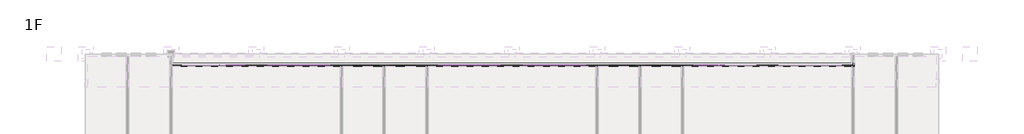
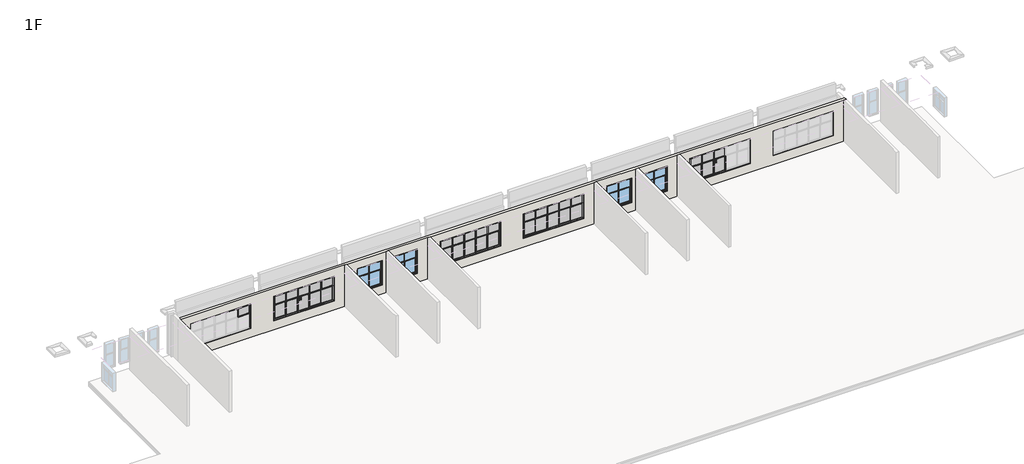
# One storey, part 5 of 16: 95 members, 30 plates, 4 windows, 1 wall.
"""IFC4 building model written with IfcOpenShell, lengths in millimetres."""

from ifc_helpers import new_model, si_unit, origin, place, context, project, spatial, faceted_brep, transform, mapped, element, save
from components import member_7564be38, member_1f4d75dd, member_0b7842ad, member_163d5e45, member_ffafc35e, member_2b011958, member_9c26cac3, member_6c42befd, member_a374fdad, plate_75e73fbb, plate_f4dba16c, plate_1cc4df2b, plate_4fa5932a, plate_00f9c624, plate_7c94d5a9, lc4_lc4_fe35c1f3

model = new_model("IFC4")

# Units and contexts
model_context = context("Model", 3, world=origin())
ifc_project = project(units=[si_unit("LENGTHUNIT", "METRE", prefix="MILLI")], contexts=[model_context])

# Site, building, storey
site = spatial("IfcSite", under=ifc_project)
building = spatial("IfcBuilding", under=site)
storey = spatial("IfcBuildingStorey", under=building, Name="1F", Elevation=0.0)

# Members
placement = place(None, origin())
member_shape = member_7564be38(model_context)
element("IfcMember", 1, ObjectType="矩形竖梃 : 教学楼 – 矩形竖梃 – 100x150mm", at=placement, inside=storey, context=model_context, shape_type="MappedRepresentation", body=[
    mapped(member_shape, transform((17900.0000002, 32200.0, 3400.0), x_axis=(0.0, 0.0, 1.0), y_axis=(0.0, -1.0, 0.0), z_axis=(1.0, 0.0, 0.0))),
])
element("IfcMember", 2, ObjectType="矩形竖梃 : 教学楼 – 矩形竖梃 – 100x150mm", at=placement, inside=storey, context=model_context, shape_type="MappedRepresentation", body=[
    mapped(member_shape, transform((25899.9999995, 32200.0, 3400.0), x_axis=(0.0, 0.0, 1.0), y_axis=(0.0, -1.0, 0.0), z_axis=(1.0, 0.0, 0.0))),
])
element("IfcMember", 3, ObjectType="矩形竖梃 : 教学楼 – 矩形竖梃 – 100x150mm", at=placement, inside=storey, context=model_context, shape_type="MappedRepresentation", body=[
    mapped(member_shape, transform((41900.0000002, 32200.0, 3400.0), x_axis=(0.0, 0.0, 1.0), y_axis=(0.0, -1.0, 0.0), z_axis=(1.0, 0.0, 0.0))),
])
element("IfcMember", 4, ObjectType="矩形竖梃 : 教学楼 – 矩形竖梃 – 100x150mm", at=placement, inside=storey, context=model_context, shape_type="MappedRepresentation", body=[
    mapped(member_shape, transform((49899.9999995, 32200.0, 3400.0), x_axis=(0.0, 0.0, 1.0), y_axis=(0.0, -1.0, 0.0), z_axis=(1.0, 0.0, 0.0))),
])
element("IfcMember", 5, ObjectType="矩形竖梃 : 教学楼 – 矩形竖梃 – 100x150mm", at=placement, inside=storey, context=model_context, shape_type="MappedRepresentation", body=[
    mapped(member_shape, transform((20099.9999995, 32200.0, 900.0), x_axis=(0.0, 0.0, -1.0), y_axis=(0.0, -1.0, 0.0), z_axis=(-1.0, 0.0, 0.0))),
])
element("IfcMember", 6, ObjectType="矩形竖梃 : 教学楼 – 矩形竖梃 – 100x150mm", at=placement, inside=storey, context=model_context, shape_type="MappedRepresentation", body=[
    mapped(member_shape, transform((36100.0000002, 32200.0, 900.0), x_axis=(0.0, 0.0, -1.0), y_axis=(0.0, -1.0, 0.0), z_axis=(-1.0, 0.0, 0.0))),
])
element("IfcMember", 7, ObjectType="矩形竖梃 : 教学楼 – 矩形竖梃 – 100x150mm", at=placement, inside=storey, context=model_context, shape_type="MappedRepresentation", body=[
    mapped(member_shape, transform((44099.9999995, 32200.0, 900.0), x_axis=(0.0, 0.0, -1.0), y_axis=(0.0, -1.0, 0.0), z_axis=(-1.0, 0.0, 0.0))),
])
element("IfcMember", 8, ObjectType="矩形竖梃 : 教学楼 – 矩形竖梃 – 100x150mm", at=placement, inside=storey, context=model_context, shape_type="MappedRepresentation", body=[
    mapped(member_shape, transform((60100.0000002, 32200.0, 900.0), x_axis=(0.0, 0.0, -1.0), y_axis=(0.0, -1.0, 0.0), z_axis=(-1.0, 0.0, 0.0))),
])
member_2_shape = member_1f4d75dd(model_context)
element("IfcMember", 9, ObjectType="矩形竖梃 : 教学楼 – 矩形竖梃 – 50x150mm", at=placement, inside=storey, context=model_context, shape_type="MappedRepresentation", body=[
    mapped(member_2_shape, transform((22449.9999995, 32200.0, 1000.0), x_axis=(1.0, 0.0, 0.0), y_axis=(0.0, -1.0, 0.0), z_axis=(0.0, 0.0, -1.0))),
])
element("IfcMember", 10, ObjectType="矩形竖梃 : 教学楼 – 矩形竖梃 – 50x150mm", at=placement, inside=storey, context=model_context, shape_type="MappedRepresentation", body=[
    mapped(member_2_shape, transform((23549.9999995, 32200.0, 1000.0), x_axis=(1.0, 0.0, 0.0), y_axis=(0.0, -1.0, 0.0), z_axis=(0.0, 0.0, -1.0))),
])
element("IfcMember", 11, ObjectType="矩形竖梃 : 教学楼 – 矩形竖梃 – 50x150mm", at=placement, inside=storey, context=model_context, shape_type="MappedRepresentation", body=[
    mapped(member_2_shape, transform((38450.0000002, 32200.0, 1000.0), x_axis=(1.0, 0.0, 0.0), y_axis=(0.0, -1.0, 0.0), z_axis=(0.0, 0.0, -1.0))),
])
element("IfcMember", 12, ObjectType="矩形竖梃 : 教学楼 – 矩形竖梃 – 50x150mm", at=placement, inside=storey, context=model_context, shape_type="MappedRepresentation", body=[
    mapped(member_2_shape, transform((39550.0000002, 32200.0, 1000.0), x_axis=(1.0, 0.0, 0.0), y_axis=(0.0, -1.0, 0.0), z_axis=(0.0, 0.0, -1.0))),
])
element("IfcMember", 13, ObjectType="矩形竖梃 : 教学楼 – 矩形竖梃 – 50x150mm", at=placement, inside=storey, context=model_context, shape_type="MappedRepresentation", body=[
    mapped(member_2_shape, transform((46449.9999995, 32200.0, 1000.0), x_axis=(1.0, 0.0, 0.0), y_axis=(0.0, -1.0, 0.0), z_axis=(0.0, 0.0, -1.0))),
])
element("IfcMember", 14, ObjectType="矩形竖梃 : 教学楼 – 矩形竖梃 – 50x150mm", at=placement, inside=storey, context=model_context, shape_type="MappedRepresentation", body=[
    mapped(member_2_shape, transform((47549.9999995, 32200.0, 1000.0), x_axis=(1.0, 0.0, 0.0), y_axis=(0.0, -1.0, 0.0), z_axis=(0.0, 0.0, -1.0))),
])
element("IfcMember", 15, ObjectType="矩形竖梃 : 教学楼 – 矩形竖梃 – 50x150mm", at=placement, inside=storey, context=model_context, shape_type="MappedRepresentation", body=[
    mapped(member_2_shape, transform((62450.0000002, 32200.0, 1000.0), x_axis=(1.0, 0.0, 0.0), y_axis=(0.0, -1.0, 0.0), z_axis=(0.0, 0.0, -1.0))),
])
element("IfcMember", 16, ObjectType="矩形竖梃 : 教学楼 – 矩形竖梃 – 50x150mm", at=placement, inside=storey, context=model_context, shape_type="MappedRepresentation", body=[
    mapped(member_2_shape, transform((63550.0000002, 32200.0, 1000.0), x_axis=(1.0, 0.0, 0.0), y_axis=(0.0, -1.0, 0.0), z_axis=(0.0, 0.0, -1.0))),
])
member_3_shape = member_0b7842ad(model_context)
element("IfcMember", 17, ObjectType="矩形竖梃 : 教学楼 – 矩形竖梃 – 50x150mm", at=placement, inside=storey, context=model_context, shape_type="MappedRepresentation", body=[
    mapped(member_3_shape, transform((21299.9999995, 32200.0, 2450.0), x_axis=(0.0, 0.0, 1.0), y_axis=(0.0, -1.0, 0.0), z_axis=(1.0, 0.0, 0.0))),
])
element("IfcMember", 18, ObjectType="矩形竖梃 : 教学楼 – 矩形竖梃 – 50x150mm", at=placement, inside=storey, context=model_context, shape_type="MappedRepresentation", body=[
    mapped(member_3_shape, transform((37300.0000002, 32200.0, 2450.0), x_axis=(0.0, 0.0, 1.0), y_axis=(0.0, -1.0, 0.0), z_axis=(1.0, 0.0, 0.0))),
])
element("IfcMember", 19, ObjectType="矩形竖梃 : 教学楼 – 矩形竖梃 – 50x150mm", at=placement, inside=storey, context=model_context, shape_type="MappedRepresentation", body=[
    mapped(member_3_shape, transform((45299.9999995, 32200.0, 2450.0), x_axis=(0.0, 0.0, 1.0), y_axis=(0.0, -1.0, 0.0), z_axis=(1.0, 0.0, 0.0))),
])
element("IfcMember", 20, ObjectType="矩形竖梃 : 教学楼 – 矩形竖梃 – 50x150mm", at=placement, inside=storey, context=model_context, shape_type="MappedRepresentation", body=[
    mapped(member_3_shape, transform((61300.0000002, 32200.0, 2450.0), x_axis=(0.0, 0.0, 1.0), y_axis=(0.0, -1.0, 0.0), z_axis=(1.0, 0.0, 0.0))),
])
member_4_shape = member_163d5e45(model_context)
element("IfcMember", 21, ObjectType="矩形竖梃 : 教学楼 – 矩形竖梃 – 50x150mm", at=placement, inside=storey, context=model_context, shape_type="MappedRepresentation", body=[
    mapped(member_4_shape, transform((22449.9999995, 32200.0, 2450.0), x_axis=(0.0, 0.0, 1.0), y_axis=(0.0, -1.0, 0.0), z_axis=(1.0, 0.0, 0.0))),
])
element("IfcMember", 22, ObjectType="矩形竖梃 : 教学楼 – 矩形竖梃 – 50x150mm", at=placement, inside=storey, context=model_context, shape_type="MappedRepresentation", body=[
    mapped(member_4_shape, transform((24699.9999995, 32200.0, 2450.0), x_axis=(0.0, 0.0, 1.0), y_axis=(0.0, -1.0, 0.0), z_axis=(1.0, 0.0, 0.0))),
])
element("IfcMember", 23, ObjectType="矩形竖梃 : 教学楼 – 矩形竖梃 – 50x150mm", at=placement, inside=storey, context=model_context, shape_type="MappedRepresentation", body=[
    mapped(member_4_shape, transform((38450.0000002, 32200.0, 2450.0), x_axis=(0.0, 0.0, 1.0), y_axis=(0.0, -1.0, 0.0), z_axis=(1.0, 0.0, 0.0))),
])
element("IfcMember", 24, ObjectType="矩形竖梃 : 教学楼 – 矩形竖梃 – 50x150mm", at=placement, inside=storey, context=model_context, shape_type="MappedRepresentation", body=[
    mapped(member_4_shape, transform((40700.0000002, 32200.0, 2450.0), x_axis=(0.0, 0.0, 1.0), y_axis=(0.0, -1.0, 0.0), z_axis=(1.0, 0.0, 0.0))),
])
element("IfcMember", 25, ObjectType="矩形竖梃 : 教学楼 – 矩形竖梃 – 50x150mm", at=placement, inside=storey, context=model_context, shape_type="MappedRepresentation", body=[
    mapped(member_4_shape, transform((46449.9999995, 32200.0, 2450.0), x_axis=(0.0, 0.0, 1.0), y_axis=(0.0, -1.0, 0.0), z_axis=(1.0, 0.0, 0.0))),
])
element("IfcMember", 26, ObjectType="矩形竖梃 : 教学楼 – 矩形竖梃 – 50x150mm", at=placement, inside=storey, context=model_context, shape_type="MappedRepresentation", body=[
    mapped(member_4_shape, transform((48699.9999995, 32200.0, 2450.0), x_axis=(0.0, 0.0, 1.0), y_axis=(0.0, -1.0, 0.0), z_axis=(1.0, 0.0, 0.0))),
])
element("IfcMember", 27, ObjectType="矩形竖梃 : 教学楼 – 矩形竖梃 – 50x150mm", at=placement, inside=storey, context=model_context, shape_type="MappedRepresentation", body=[
    mapped(member_4_shape, transform((62450.0000002, 32200.0, 2450.0), x_axis=(0.0, 0.0, 1.0), y_axis=(0.0, -1.0, 0.0), z_axis=(1.0, 0.0, 0.0))),
])
element("IfcMember", 28, ObjectType="矩形竖梃 : 教学楼 – 矩形竖梃 – 50x150mm", at=placement, inside=storey, context=model_context, shape_type="MappedRepresentation", body=[
    mapped(member_3_shape, transform((23549.9999995, 32200.0, 2450.0), x_axis=(0.0, 0.0, 1.0), y_axis=(0.0, -1.0, 0.0), z_axis=(1.0, 0.0, 0.0))),
])
element("IfcMember", 29, ObjectType="矩形竖梃 : 教学楼 – 矩形竖梃 – 50x150mm", at=placement, inside=storey, context=model_context, shape_type="MappedRepresentation", body=[
    mapped(member_3_shape, transform((39550.0000002, 32200.0, 2450.0), x_axis=(0.0, 0.0, 1.0), y_axis=(0.0, -1.0, 0.0), z_axis=(1.0, 0.0, 0.0))),
])
element("IfcMember", 30, ObjectType="矩形竖梃 : 教学楼 – 矩形竖梃 – 50x150mm", at=placement, inside=storey, context=model_context, shape_type="MappedRepresentation", body=[
    mapped(member_3_shape, transform((47549.9999995, 32200.0, 2450.0), x_axis=(0.0, 0.0, 1.0), y_axis=(0.0, -1.0, 0.0), z_axis=(1.0, 0.0, 0.0))),
])
element("IfcMember", 31, ObjectType="矩形竖梃 : 教学楼 – 矩形竖梃 – 50x150mm", at=placement, inside=storey, context=model_context, shape_type="MappedRepresentation", body=[
    mapped(member_3_shape, transform((63550.0000002, 32200.0, 2450.0), x_axis=(0.0, 0.0, 1.0), y_axis=(0.0, -1.0, 0.0), z_axis=(1.0, 0.0, 0.0))),
])
element("IfcMember", 32, ObjectType="矩形竖梃 : 教学楼 – 矩形竖梃 – 50x150mm", at=placement, inside=storey, context=model_context, shape_type="MappedRepresentation", body=[
    mapped(member_3_shape, transform((17800.0000002, 32200.0, 2450.0), x_axis=(0.0, 0.0, 1.0), y_axis=(0.0, -1.0, 0.0), z_axis=(1.0, 0.0, 0.0))),
])
element("IfcMember", 33, ObjectType="矩形竖梃 : 教学楼 – 矩形竖梃 – 50x150mm", at=placement, inside=storey, context=model_context, shape_type="MappedRepresentation", body=[
    mapped(member_3_shape, transform((25799.9999995, 32200.0, 2450.0), x_axis=(0.0, 0.0, 1.0), y_axis=(0.0, -1.0, 0.0), z_axis=(1.0, 0.0, 0.0))),
])
element("IfcMember", 34, ObjectType="矩形竖梃 : 教学楼 – 矩形竖梃 – 50x150mm", at=placement, inside=storey, context=model_context, shape_type="MappedRepresentation", body=[
    mapped(member_3_shape, transform((41800.0000002, 32200.0, 2450.0), x_axis=(0.0, 0.0, 1.0), y_axis=(0.0, -1.0, 0.0), z_axis=(1.0, 0.0, 0.0))),
])
element("IfcMember", 35, ObjectType="矩形竖梃 : 教学楼 – 矩形竖梃 – 50x150mm", at=placement, inside=storey, context=model_context, shape_type="MappedRepresentation", body=[
    mapped(member_3_shape, transform((49799.9999995, 32200.0, 2450.0), x_axis=(0.0, 0.0, 1.0), y_axis=(0.0, -1.0, 0.0), z_axis=(1.0, 0.0, 0.0))),
])
member_5_shape = member_ffafc35e(model_context)
element("IfcMember", 36, ObjectType="矩形竖梃 : 教学楼 – 矩形竖梃 – 100x150mm", at=placement, inside=storey, context=model_context, shape_type="MappedRepresentation", body=[
    mapped(member_5_shape, transform((21299.9999995, 32200.0, 900.0), x_axis=(0.0, 0.0, -1.0), y_axis=(0.0, -1.0, 0.0), z_axis=(-1.0, 0.0, 0.0))),
])
element("IfcMember", 37, ObjectType="矩形竖梃 : 教学楼 – 矩形竖梃 – 100x150mm", at=placement, inside=storey, context=model_context, shape_type="MappedRepresentation", body=[
    mapped(member_5_shape, transform((37300.0000002, 32200.0, 900.0), x_axis=(0.0, 0.0, -1.0), y_axis=(0.0, -1.0, 0.0), z_axis=(-1.0, 0.0, 0.0))),
])
element("IfcMember", 38, ObjectType="矩形竖梃 : 教学楼 – 矩形竖梃 – 100x150mm", at=placement, inside=storey, context=model_context, shape_type="MappedRepresentation", body=[
    mapped(member_5_shape, transform((45299.9999995, 32200.0, 900.0), x_axis=(0.0, 0.0, -1.0), y_axis=(0.0, -1.0, 0.0), z_axis=(-1.0, 0.0, 0.0))),
])
element("IfcMember", 39, ObjectType="矩形竖梃 : 教学楼 – 矩形竖梃 – 100x150mm", at=placement, inside=storey, context=model_context, shape_type="MappedRepresentation", body=[
    mapped(member_5_shape, transform((61300.0000002, 32200.0, 900.0), x_axis=(0.0, 0.0, -1.0), y_axis=(0.0, -1.0, 0.0), z_axis=(-1.0, 0.0, 0.0))),
])
member_6_shape = member_2b011958(model_context)
element("IfcMember", 40, ObjectType="矩形竖梃 : 教学楼 – 矩形竖梃 – 100x150mm", at=placement, inside=storey, context=model_context, shape_type="MappedRepresentation", body=[
    mapped(member_6_shape, transform((22449.9999995, 32200.0, 900.0), x_axis=(0.0, 0.0, -1.0), y_axis=(0.0, -1.0, 0.0), z_axis=(-1.0, 0.0, 0.0))),
])
element("IfcMember", 41, ObjectType="矩形竖梃 : 教学楼 – 矩形竖梃 – 100x150mm", at=placement, inside=storey, context=model_context, shape_type="MappedRepresentation", body=[
    mapped(member_6_shape, transform((38450.0000002, 32200.0, 900.0), x_axis=(0.0, 0.0, -1.0), y_axis=(0.0, -1.0, 0.0), z_axis=(-1.0, 0.0, 0.0))),
])
element("IfcMember", 42, ObjectType="矩形竖梃 : 教学楼 – 矩形竖梃 – 100x150mm", at=placement, inside=storey, context=model_context, shape_type="MappedRepresentation", body=[
    mapped(member_6_shape, transform((46449.9999995, 32200.0, 900.0), x_axis=(0.0, 0.0, -1.0), y_axis=(0.0, -1.0, 0.0), z_axis=(-1.0, 0.0, 0.0))),
])
element("IfcMember", 43, ObjectType="矩形竖梃 : 教学楼 – 矩形竖梃 – 100x150mm", at=placement, inside=storey, context=model_context, shape_type="MappedRepresentation", body=[
    mapped(member_6_shape, transform((62450.0000002, 32200.0, 900.0), x_axis=(0.0, 0.0, -1.0), y_axis=(0.0, -1.0, 0.0), z_axis=(-1.0, 0.0, 0.0))),
])
element("IfcMember", 44, ObjectType="矩形竖梃 : 教学楼 – 矩形竖梃 – 100x150mm", at=placement, inside=storey, context=model_context, shape_type="MappedRepresentation", body=[
    mapped(member_5_shape, transform((23549.9999995, 32200.0, 900.0), x_axis=(0.0, 0.0, -1.0), y_axis=(0.0, -1.0, 0.0), z_axis=(-1.0, 0.0, 0.0))),
])
element("IfcMember", 45, ObjectType="矩形竖梃 : 教学楼 – 矩形竖梃 – 100x150mm", at=placement, inside=storey, context=model_context, shape_type="MappedRepresentation", body=[
    mapped(member_5_shape, transform((39550.0000002, 32200.0, 900.0), x_axis=(0.0, 0.0, -1.0), y_axis=(0.0, -1.0, 0.0), z_axis=(-1.0, 0.0, 0.0))),
])
element("IfcMember", 46, ObjectType="矩形竖梃 : 教学楼 – 矩形竖梃 – 100x150mm", at=placement, inside=storey, context=model_context, shape_type="MappedRepresentation", body=[
    mapped(member_5_shape, transform((47549.9999995, 32200.0, 900.0), x_axis=(0.0, 0.0, -1.0), y_axis=(0.0, -1.0, 0.0), z_axis=(-1.0, 0.0, 0.0))),
])
element("IfcMember", 47, ObjectType="矩形竖梃 : 教学楼 – 矩形竖梃 – 100x150mm", at=placement, inside=storey, context=model_context, shape_type="MappedRepresentation", body=[
    mapped(member_shape, transform((24699.9999995, 32200.0, 900.0), x_axis=(0.0, 0.0, -1.0), y_axis=(0.0, -1.0, 0.0), z_axis=(-1.0, 0.0, 0.0))),
])
element("IfcMember", 48, ObjectType="矩形竖梃 : 教学楼 – 矩形竖梃 – 100x150mm", at=placement, inside=storey, context=model_context, shape_type="MappedRepresentation", body=[
    mapped(member_shape, transform((40700.0000002, 32200.0, 900.0), x_axis=(0.0, 0.0, -1.0), y_axis=(0.0, -1.0, 0.0), z_axis=(-1.0, 0.0, 0.0))),
])
element("IfcMember", 49, ObjectType="矩形竖梃 : 教学楼 – 矩形竖梃 – 100x150mm", at=placement, inside=storey, context=model_context, shape_type="MappedRepresentation", body=[
    mapped(member_shape, transform((48699.9999995, 32200.0, 900.0), x_axis=(0.0, 0.0, -1.0), y_axis=(0.0, -1.0, 0.0), z_axis=(-1.0, 0.0, 0.0))),
])
element("IfcMember", 50, ObjectType="矩形竖梃 : 教学楼 – 矩形竖梃 – 100x150mm", at=placement, inside=storey, context=model_context, shape_type="MappedRepresentation", body=[
    mapped(member_shape, transform((21299.9999995, 32200.0, 3400.0), x_axis=(0.0, 0.0, 1.0), y_axis=(0.0, -1.0, 0.0), z_axis=(1.0, 0.0, 0.0))),
])
element("IfcMember", 51, ObjectType="矩形竖梃 : 教学楼 – 矩形竖梃 – 100x150mm", at=placement, inside=storey, context=model_context, shape_type="MappedRepresentation", body=[
    mapped(member_shape, transform((37300.0000002, 32200.0, 3400.0), x_axis=(0.0, 0.0, 1.0), y_axis=(0.0, -1.0, 0.0), z_axis=(1.0, 0.0, 0.0))),
])
element("IfcMember", 52, ObjectType="矩形竖梃 : 教学楼 – 矩形竖梃 – 100x150mm", at=placement, inside=storey, context=model_context, shape_type="MappedRepresentation", body=[
    mapped(member_shape, transform((45299.9999995, 32200.0, 3400.0), x_axis=(0.0, 0.0, 1.0), y_axis=(0.0, -1.0, 0.0), z_axis=(1.0, 0.0, 0.0))),
])
element("IfcMember", 53, ObjectType="矩形竖梃 : 教学楼 – 矩形竖梃 – 100x150mm", at=placement, inside=storey, context=model_context, shape_type="MappedRepresentation", body=[
    mapped(member_shape, transform((61300.0000002, 32200.0, 3400.0), x_axis=(0.0, 0.0, 1.0), y_axis=(0.0, -1.0, 0.0), z_axis=(1.0, 0.0, 0.0))),
])
element("IfcMember", 54, ObjectType="矩形竖梃 : 教学楼 – 矩形竖梃 – 100x150mm", at=placement, inside=storey, context=model_context, shape_type="MappedRepresentation", body=[
    mapped(member_5_shape, transform((16700.0000002, 32200.0, 3400.0), x_axis=(0.0, 0.0, 1.0), y_axis=(0.0, -1.0, 0.0), z_axis=(1.0, 0.0, 0.0))),
])
element("IfcMember", 55, ObjectType="矩形竖梃 : 教学楼 – 矩形竖梃 – 100x150mm", at=placement, inside=storey, context=model_context, shape_type="MappedRepresentation", body=[
    mapped(member_5_shape, transform((22449.9999995, 32200.0, 3400.0), x_axis=(0.0, 0.0, 1.0), y_axis=(0.0, -1.0, 0.0), z_axis=(1.0, 0.0, 0.0))),
])
element("IfcMember", 56, ObjectType="矩形竖梃 : 教学楼 – 矩形竖梃 – 100x150mm", at=placement, inside=storey, context=model_context, shape_type="MappedRepresentation", body=[
    mapped(member_5_shape, transform((24699.9999995, 32200.0, 3400.0), x_axis=(0.0, 0.0, 1.0), y_axis=(0.0, -1.0, 0.0), z_axis=(1.0, 0.0, 0.0))),
])
element("IfcMember", 57, ObjectType="矩形竖梃 : 教学楼 – 矩形竖梃 – 100x150mm", at=placement, inside=storey, context=model_context, shape_type="MappedRepresentation", body=[
    mapped(member_5_shape, transform((38450.0000002, 32200.0, 3400.0), x_axis=(0.0, 0.0, 1.0), y_axis=(0.0, -1.0, 0.0), z_axis=(1.0, 0.0, 0.0))),
])
element("IfcMember", 58, ObjectType="矩形竖梃 : 教学楼 – 矩形竖梃 – 100x150mm", at=placement, inside=storey, context=model_context, shape_type="MappedRepresentation", body=[
    mapped(member_5_shape, transform((40700.0000002, 32200.0, 3400.0), x_axis=(0.0, 0.0, 1.0), y_axis=(0.0, -1.0, 0.0), z_axis=(1.0, 0.0, 0.0))),
])
element("IfcMember", 59, ObjectType="矩形竖梃 : 教学楼 – 矩形竖梃 – 100x150mm", at=placement, inside=storey, context=model_context, shape_type="MappedRepresentation", body=[
    mapped(member_5_shape, transform((46449.9999995, 32200.0, 3400.0), x_axis=(0.0, 0.0, 1.0), y_axis=(0.0, -1.0, 0.0), z_axis=(1.0, 0.0, 0.0))),
])
element("IfcMember", 60, ObjectType="矩形竖梃 : 教学楼 – 矩形竖梃 – 100x150mm", at=placement, inside=storey, context=model_context, shape_type="MappedRepresentation", body=[
    mapped(member_5_shape, transform((48699.9999995, 32200.0, 3400.0), x_axis=(0.0, 0.0, 1.0), y_axis=(0.0, -1.0, 0.0), z_axis=(1.0, 0.0, 0.0))),
])
element("IfcMember", 61, ObjectType="矩形竖梃 : 教学楼 – 矩形竖梃 – 100x150mm", at=placement, inside=storey, context=model_context, shape_type="MappedRepresentation", body=[
    mapped(member_5_shape, transform((62450.0000002, 32200.0, 3400.0), x_axis=(0.0, 0.0, 1.0), y_axis=(0.0, -1.0, 0.0), z_axis=(1.0, 0.0, 0.0))),
])
element("IfcMember", 62, ObjectType="矩形竖梃 : 教学楼 – 矩形竖梃 – 100x150mm", at=placement, inside=storey, context=model_context, shape_type="MappedRepresentation", body=[
    mapped(member_6_shape, transform((23549.9999995, 32200.0, 3400.0), x_axis=(0.0, 0.0, 1.0), y_axis=(0.0, -1.0, 0.0), z_axis=(1.0, 0.0, 0.0))),
])
element("IfcMember", 63, ObjectType="矩形竖梃 : 教学楼 – 矩形竖梃 – 100x150mm", at=placement, inside=storey, context=model_context, shape_type="MappedRepresentation", body=[
    mapped(member_6_shape, transform((39550.0000002, 32200.0, 3400.0), x_axis=(0.0, 0.0, 1.0), y_axis=(0.0, -1.0, 0.0), z_axis=(1.0, 0.0, 0.0))),
])
element("IfcMember", 64, ObjectType="矩形竖梃 : 教学楼 – 矩形竖梃 – 100x150mm", at=placement, inside=storey, context=model_context, shape_type="MappedRepresentation", body=[
    mapped(member_6_shape, transform((47549.9999995, 32200.0, 3400.0), x_axis=(0.0, 0.0, 1.0), y_axis=(0.0, -1.0, 0.0), z_axis=(1.0, 0.0, 0.0))),
])
member_7_shape = member_9c26cac3(model_context)
element("IfcMember", 65, ObjectType="矩形竖梃 : 教学楼 – 矩形竖梃 – 50x150mm", at=placement, inside=storey, context=model_context, shape_type="MappedRepresentation", body=[
    mapped(member_7_shape, transform((16700.0000002, 32200.0, 2475.0), x_axis=(1.0, 0.0, 0.0), y_axis=(0.0, -1.0, 0.0), z_axis=(0.0, 0.0, -1.0))),
])
element("IfcMember", 66, ObjectType="矩形竖梃 : 教学楼 – 矩形竖梃 – 50x150mm", at=placement, inside=storey, context=model_context, shape_type="MappedRepresentation", body=[
    mapped(member_7_shape, transform((21299.9999995, 32200.0, 2475.0), x_axis=(1.0, 0.0, 0.0), y_axis=(0.0, -1.0, 0.0), z_axis=(0.0, 0.0, -1.0))),
])
element("IfcMember", 67, ObjectType="矩形竖梃 : 教学楼 – 矩形竖梃 – 50x150mm", at=placement, inside=storey, context=model_context, shape_type="MappedRepresentation", body=[
    mapped(member_7_shape, transform((22449.9999995, 32200.0, 2475.0), x_axis=(1.0, 0.0, 0.0), y_axis=(0.0, -1.0, 0.0), z_axis=(0.0, 0.0, -1.0))),
])
element("IfcMember", 68, ObjectType="矩形竖梃 : 教学楼 – 矩形竖梃 – 50x150mm", at=placement, inside=storey, context=model_context, shape_type="MappedRepresentation", body=[
    mapped(member_7_shape, transform((23549.9999995, 32200.0, 2475.0), x_axis=(1.0, 0.0, 0.0), y_axis=(0.0, -1.0, 0.0), z_axis=(0.0, 0.0, -1.0))),
])
element("IfcMember", 69, ObjectType="矩形竖梃 : 教学楼 – 矩形竖梃 – 50x150mm", at=placement, inside=storey, context=model_context, shape_type="MappedRepresentation", body=[
    mapped(member_7_shape, transform((24699.9999995, 32200.0, 2475.0), x_axis=(1.0, 0.0, 0.0), y_axis=(0.0, -1.0, 0.0), z_axis=(0.0, 0.0, -1.0))),
])
element("IfcMember", 70, ObjectType="矩形竖梃 : 教学楼 – 矩形竖梃 – 50x150mm", at=placement, inside=storey, context=model_context, shape_type="MappedRepresentation", body=[
    mapped(member_7_shape, transform((37300.0000002, 32200.0, 2475.0), x_axis=(1.0, 0.0, 0.0), y_axis=(0.0, -1.0, 0.0), z_axis=(0.0, 0.0, -1.0))),
])
element("IfcMember", 71, ObjectType="矩形竖梃 : 教学楼 – 矩形竖梃 – 50x150mm", at=placement, inside=storey, context=model_context, shape_type="MappedRepresentation", body=[
    mapped(member_7_shape, transform((38450.0000002, 32200.0, 2475.0), x_axis=(1.0, 0.0, 0.0), y_axis=(0.0, -1.0, 0.0), z_axis=(0.0, 0.0, -1.0))),
])
element("IfcMember", 72, ObjectType="矩形竖梃 : 教学楼 – 矩形竖梃 – 50x150mm", at=placement, inside=storey, context=model_context, shape_type="MappedRepresentation", body=[
    mapped(member_7_shape, transform((39550.0000002, 32200.0, 2475.0), x_axis=(1.0, 0.0, 0.0), y_axis=(0.0, -1.0, 0.0), z_axis=(0.0, 0.0, -1.0))),
])
element("IfcMember", 73, ObjectType="矩形竖梃 : 教学楼 – 矩形竖梃 – 50x150mm", at=placement, inside=storey, context=model_context, shape_type="MappedRepresentation", body=[
    mapped(member_7_shape, transform((40700.0000002, 32200.0, 2475.0), x_axis=(1.0, 0.0, 0.0), y_axis=(0.0, -1.0, 0.0), z_axis=(0.0, 0.0, -1.0))),
])
element("IfcMember", 74, ObjectType="矩形竖梃 : 教学楼 – 矩形竖梃 – 50x150mm", at=placement, inside=storey, context=model_context, shape_type="MappedRepresentation", body=[
    mapped(member_7_shape, transform((45299.9999995, 32200.0, 2475.0), x_axis=(1.0, 0.0, 0.0), y_axis=(0.0, -1.0, 0.0), z_axis=(0.0, 0.0, -1.0))),
])
element("IfcMember", 75, ObjectType="矩形竖梃 : 教学楼 – 矩形竖梃 – 50x150mm", at=placement, inside=storey, context=model_context, shape_type="MappedRepresentation", body=[
    mapped(member_7_shape, transform((46449.9999995, 32200.0, 2475.0), x_axis=(1.0, 0.0, 0.0), y_axis=(0.0, -1.0, 0.0), z_axis=(0.0, 0.0, -1.0))),
])
element("IfcMember", 76, ObjectType="矩形竖梃 : 教学楼 – 矩形竖梃 – 50x150mm", at=placement, inside=storey, context=model_context, shape_type="MappedRepresentation", body=[
    mapped(member_7_shape, transform((47549.9999995, 32200.0, 2475.0), x_axis=(1.0, 0.0, 0.0), y_axis=(0.0, -1.0, 0.0), z_axis=(0.0, 0.0, -1.0))),
])
element("IfcMember", 77, ObjectType="矩形竖梃 : 教学楼 – 矩形竖梃 – 50x150mm", at=placement, inside=storey, context=model_context, shape_type="MappedRepresentation", body=[
    mapped(member_7_shape, transform((48699.9999995, 32200.0, 2475.0), x_axis=(1.0, 0.0, 0.0), y_axis=(0.0, -1.0, 0.0), z_axis=(0.0, 0.0, -1.0))),
])
element("IfcMember", 78, ObjectType="矩形竖梃 : 教学楼 – 矩形竖梃 – 50x150mm", at=placement, inside=storey, context=model_context, shape_type="MappedRepresentation", body=[
    mapped(member_7_shape, transform((61300.0000002, 32200.0, 2475.0), x_axis=(1.0, 0.0, 0.0), y_axis=(0.0, -1.0, 0.0), z_axis=(0.0, 0.0, -1.0))),
])
element("IfcMember", 79, ObjectType="矩形竖梃 : 教学楼 – 矩形竖梃 – 50x150mm", at=placement, inside=storey, context=model_context, shape_type="MappedRepresentation", body=[
    mapped(member_7_shape, transform((62450.0000002, 32200.0, 2475.0), x_axis=(1.0, 0.0, 0.0), y_axis=(0.0, -1.0, 0.0), z_axis=(0.0, 0.0, -1.0))),
])
member_8_shape = member_6c42befd(model_context)
element("IfcMember", 80, ObjectType="矩形竖梃 : 教学楼 – 矩形竖梃 – 100x150mm", at=placement, inside=storey, context=model_context, shape_type="MappedRepresentation", body=[
    mapped(member_8_shape, transform((20099.9999995, 32200.0, 3300.0), x_axis=(-1.0, 0.0, 0.0), y_axis=(0.0, -1.0, 0.0), z_axis=(0.0, 0.0, 1.0))),
])
element("IfcMember", 81, ObjectType="矩形竖梃 : 教学楼 – 矩形竖梃 – 100x150mm", at=placement, inside=storey, context=model_context, shape_type="MappedRepresentation", body=[
    mapped(member_8_shape, transform((36100.0000002, 32200.0, 3300.0), x_axis=(-1.0, 0.0, 0.0), y_axis=(0.0, -1.0, 0.0), z_axis=(0.0, 0.0, 1.0))),
])
element("IfcMember", 82, ObjectType="矩形竖梃 : 教学楼 – 矩形竖梃 – 100x150mm", at=placement, inside=storey, context=model_context, shape_type="MappedRepresentation", body=[
    mapped(member_8_shape, transform((44099.9999995, 32200.0, 3300.0), x_axis=(-1.0, 0.0, 0.0), y_axis=(0.0, -1.0, 0.0), z_axis=(0.0, 0.0, 1.0))),
])
element("IfcMember", 83, ObjectType="矩形竖梃 : 教学楼 – 矩形竖梃 – 100x150mm", at=placement, inside=storey, context=model_context, shape_type="MappedRepresentation", body=[
    mapped(member_8_shape, transform((60100.0000002, 32200.0, 3300.0), x_axis=(-1.0, 0.0, 0.0), y_axis=(0.0, -1.0, 0.0), z_axis=(0.0, 0.0, 1.0))),
])
member_9_shape = member_a374fdad(model_context)
element("IfcMember", 84, ObjectType="矩形竖梃 : 教学楼 – 矩形竖梃 – 100x150mm", at=placement, inside=storey, context=model_context, shape_type="MappedRepresentation", body=[
    mapped(member_9_shape, transform((17900.0000002, 32200.0, 1000.0), x_axis=(1.0, 0.0, 0.0), y_axis=(0.0, -1.0, 0.0), z_axis=(0.0, 0.0, -1.0))),
])
element("IfcMember", 85, ObjectType="矩形竖梃 : 教学楼 – 矩形竖梃 – 100x150mm", at=placement, inside=storey, context=model_context, shape_type="MappedRepresentation", body=[
    mapped(member_9_shape, transform((25899.9999995, 32200.0, 1000.0), x_axis=(1.0, 0.0, 0.0), y_axis=(0.0, -1.0, 0.0), z_axis=(0.0, 0.0, -1.0))),
])
element("IfcMember", 86, ObjectType="矩形竖梃 : 教学楼 – 矩形竖梃 – 100x150mm", at=placement, inside=storey, context=model_context, shape_type="MappedRepresentation", body=[
    mapped(member_9_shape, transform((41900.0000002, 32200.0, 1000.0), x_axis=(1.0, 0.0, 0.0), y_axis=(0.0, -1.0, 0.0), z_axis=(0.0, 0.0, -1.0))),
])
element("IfcMember", 87, ObjectType="矩形竖梃 : 教学楼 – 矩形竖梃 – 100x150mm", at=placement, inside=storey, context=model_context, shape_type="MappedRepresentation", body=[
    mapped(member_9_shape, transform((49899.9999995, 32200.0, 1000.0), x_axis=(1.0, 0.0, 0.0), y_axis=(0.0, -1.0, 0.0), z_axis=(0.0, 0.0, -1.0))),
])
element("IfcMember", 88, ObjectType="矩形竖梃 : 教学楼 – 矩形竖梃 – 100x150mm", at=placement, inside=storey, context=model_context, shape_type="MappedRepresentation", body=[
    mapped(member_8_shape, transform((17900.0000002, 32200.0, 2450.0), x_axis=(1.0, 0.0, 0.0), y_axis=(0.0, -1.0, 0.0), z_axis=(0.0, 0.0, -1.0))),
])
element("IfcMember", 89, ObjectType="矩形竖梃 : 教学楼 – 矩形竖梃 – 100x150mm", at=placement, inside=storey, context=model_context, shape_type="MappedRepresentation", body=[
    mapped(member_8_shape, transform((25899.9999995, 32200.0, 2450.0), x_axis=(1.0, 0.0, 0.0), y_axis=(0.0, -1.0, 0.0), z_axis=(0.0, 0.0, -1.0))),
])
element("IfcMember", 90, ObjectType="矩形竖梃 : 教学楼 – 矩形竖梃 – 100x150mm", at=placement, inside=storey, context=model_context, shape_type="MappedRepresentation", body=[
    mapped(member_8_shape, transform((41900.0000002, 32200.0, 2450.0), x_axis=(1.0, 0.0, 0.0), y_axis=(0.0, -1.0, 0.0), z_axis=(0.0, 0.0, -1.0))),
])
element("IfcMember", 91, ObjectType="矩形竖梃 : 教学楼 – 矩形竖梃 – 100x150mm", at=placement, inside=storey, context=model_context, shape_type="MappedRepresentation", body=[
    mapped(member_8_shape, transform((49899.9999995, 32200.0, 2450.0), x_axis=(1.0, 0.0, 0.0), y_axis=(0.0, -1.0, 0.0), z_axis=(0.0, 0.0, -1.0))),
])
element("IfcMember", 92, ObjectType="矩形竖梃 : 教学楼 – 矩形竖梃 – 100x150mm", at=placement, inside=storey, context=model_context, shape_type="MappedRepresentation", body=[
    mapped(member_9_shape, transform((20099.9999995, 32200.0, 2450.0), x_axis=(-1.0, 0.0, 0.0), y_axis=(0.0, -1.0, 0.0), z_axis=(0.0, 0.0, 1.0))),
])
element("IfcMember", 93, ObjectType="矩形竖梃 : 教学楼 – 矩形竖梃 – 100x150mm", at=placement, inside=storey, context=model_context, shape_type="MappedRepresentation", body=[
    mapped(member_9_shape, transform((36100.0000002, 32200.0, 2450.0), x_axis=(-1.0, 0.0, 0.0), y_axis=(0.0, -1.0, 0.0), z_axis=(0.0, 0.0, 1.0))),
])
element("IfcMember", 94, ObjectType="矩形竖梃 : 教学楼 – 矩形竖梃 – 100x150mm", at=placement, inside=storey, context=model_context, shape_type="MappedRepresentation", body=[
    mapped(member_9_shape, transform((44099.9999995, 32200.0, 2450.0), x_axis=(-1.0, 0.0, 0.0), y_axis=(0.0, -1.0, 0.0), z_axis=(0.0, 0.0, 1.0))),
])
element("IfcMember", 95, ObjectType="矩形竖梃 : 教学楼 – 矩形竖梃 – 100x150mm", at=placement, inside=storey, context=model_context, shape_type="MappedRepresentation", body=[
    mapped(member_9_shape, transform((60100.0000002, 32200.0, 2450.0), x_axis=(-1.0, 0.0, 0.0), y_axis=(0.0, -1.0, 0.0), z_axis=(0.0, 0.0, 1.0))),
])

# Plates
plate_shape = plate_75e73fbb(model_context)
element("IfcPlate", 96, ObjectType="教学楼 - 窗嵌板：双扇推拉窗 : 教学楼 - 窗嵌板：双扇推拉窗", at=placement, inside=storey, context=model_context, shape_type="MappedRepresentation", body=[
    mapped(plate_shape, transform((21312.4999995, 32200.0, 1000.0), x_axis=(1.0, 0.0, 0.0), y_axis=(0.0, 1.0, 0.0), z_axis=(0.0, 0.0, 1.0))),
])
element("IfcPlate", 97, ObjectType="教学楼 - 窗嵌板：双扇推拉窗 : 教学楼 - 窗嵌板：双扇推拉窗", at=placement, inside=storey, context=model_context, shape_type="MappedRepresentation", body=[
    mapped(plate_shape, transform((37312.5000002, 32200.0, 1000.0), x_axis=(1.0, 0.0, 0.0), y_axis=(0.0, 1.0, 0.0), z_axis=(0.0, 0.0, 1.0))),
])
element("IfcPlate", 98, ObjectType="教学楼 - 窗嵌板：双扇推拉窗 : 教学楼 - 窗嵌板：双扇推拉窗", at=placement, inside=storey, context=model_context, shape_type="MappedRepresentation", body=[
    mapped(plate_shape, transform((45312.4999995, 32200.0, 1000.0), x_axis=(1.0, 0.0, 0.0), y_axis=(0.0, 1.0, 0.0), z_axis=(0.0, 0.0, 1.0))),
])
element("IfcPlate", 99, ObjectType="教学楼 - 窗嵌板：双扇推拉窗 : 教学楼 - 窗嵌板：双扇推拉窗", at=placement, inside=storey, context=model_context, shape_type="MappedRepresentation", body=[
    mapped(plate_shape, transform((61312.5000002, 32200.0, 1000.0), x_axis=(1.0, 0.0, 0.0), y_axis=(0.0, 1.0, 0.0), z_axis=(0.0, 0.0, 1.0))),
])
plate_2_shape = plate_f4dba16c(model_context)
element("IfcPlate", 100, ObjectType="系统嵌板 : 玻璃", at=placement, inside=storey, context=model_context, shape_type="MappedRepresentation", body=[
    mapped(plate_2_shape, transform((39000.0000002, 32200.0, 1000.0), x_axis=(1.0, 0.0, 0.0), y_axis=(0.0, 1.0, 0.0), z_axis=(0.0, 0.0, 1.0))),
])
element("IfcPlate", 101, ObjectType="系统嵌板 : 玻璃", at=placement, inside=storey, context=model_context, shape_type="MappedRepresentation", body=[
    mapped(plate_2_shape, transform((46999.9999995, 32200.0, 1000.0), x_axis=(1.0, 0.0, 0.0), y_axis=(0.0, 1.0, 0.0), z_axis=(0.0, 0.0, 1.0))),
])
element("IfcPlate", 102, ObjectType="教学楼 - 窗嵌板：双扇推拉窗 : 教学楼 - 窗嵌板：双扇推拉窗", at=placement, inside=storey, context=model_context, shape_type="MappedRepresentation", body=[
    mapped(plate_shape, transform((24687.4999995, 32200.0, 1000.0), x_axis=(1.0, 0.0, 0.0), y_axis=(0.0, 1.0, 0.0), z_axis=(0.0, 0.0, 1.0))),
])
element("IfcPlate", 103, ObjectType="教学楼 - 窗嵌板：双扇推拉窗 : 教学楼 - 窗嵌板：双扇推拉窗", at=placement, inside=storey, context=model_context, shape_type="MappedRepresentation", body=[
    mapped(plate_shape, transform((40687.5000002, 32200.0, 1000.0), x_axis=(1.0, 0.0, 0.0), y_axis=(0.0, 1.0, 0.0), z_axis=(0.0, 0.0, 1.0))),
])
element("IfcPlate", 104, ObjectType="教学楼 - 窗嵌板：双扇推拉窗 : 教学楼 - 窗嵌板：双扇推拉窗", at=placement, inside=storey, context=model_context, shape_type="MappedRepresentation", body=[
    mapped(plate_shape, transform((48687.4999995, 32200.0, 1000.0), x_axis=(1.0, 0.0, 0.0), y_axis=(0.0, 1.0, 0.0), z_axis=(0.0, 0.0, 1.0))),
])
plate_3_shape = plate_1cc4df2b(model_context)
element("IfcPlate", 105, ObjectType="系统嵌板 : 玻璃", at=placement, inside=storey, context=model_context, shape_type="MappedRepresentation", body=[
    mapped(plate_3_shape, transform((17262.5000002, 32200.0, 2475.0), x_axis=(1.0, 0.0, 0.0), y_axis=(0.0, 1.0, 0.0), z_axis=(0.0, 0.0, 1.0))),
])
element("IfcPlate", 106, ObjectType="系统嵌板 : 玻璃", at=placement, inside=storey, context=model_context, shape_type="MappedRepresentation", body=[
    mapped(plate_3_shape, transform((20737.4999995, 32200.0, 2475.0), x_axis=(1.0, 0.0, 0.0), y_axis=(0.0, 1.0, 0.0), z_axis=(0.0, 0.0, 1.0))),
])
element("IfcPlate", 107, ObjectType="系统嵌板 : 玻璃", at=placement, inside=storey, context=model_context, shape_type="MappedRepresentation", body=[
    mapped(plate_3_shape, transform((25262.4999995, 32200.0, 2475.0), x_axis=(1.0, 0.0, 0.0), y_axis=(0.0, 1.0, 0.0), z_axis=(0.0, 0.0, 1.0))),
])
element("IfcPlate", 108, ObjectType="系统嵌板 : 玻璃", at=placement, inside=storey, context=model_context, shape_type="MappedRepresentation", body=[
    mapped(plate_3_shape, transform((36737.5000002, 32200.0, 2475.0), x_axis=(1.0, 0.0, 0.0), y_axis=(0.0, 1.0, 0.0), z_axis=(0.0, 0.0, 1.0))),
])
element("IfcPlate", 109, ObjectType="系统嵌板 : 玻璃", at=placement, inside=storey, context=model_context, shape_type="MappedRepresentation", body=[
    mapped(plate_3_shape, transform((41262.5000002, 32200.0, 2475.0), x_axis=(1.0, 0.0, 0.0), y_axis=(0.0, 1.0, 0.0), z_axis=(0.0, 0.0, 1.0))),
])
element("IfcPlate", 110, ObjectType="系统嵌板 : 玻璃", at=placement, inside=storey, context=model_context, shape_type="MappedRepresentation", body=[
    mapped(plate_3_shape, transform((44737.4999995, 32200.0, 2475.0), x_axis=(1.0, 0.0, 0.0), y_axis=(0.0, 1.0, 0.0), z_axis=(0.0, 0.0, 1.0))),
])
element("IfcPlate", 111, ObjectType="系统嵌板 : 玻璃", at=placement, inside=storey, context=model_context, shape_type="MappedRepresentation", body=[
    mapped(plate_3_shape, transform((49262.4999995, 32200.0, 2475.0), x_axis=(1.0, 0.0, 0.0), y_axis=(0.0, 1.0, 0.0), z_axis=(0.0, 0.0, 1.0))),
])
element("IfcPlate", 112, ObjectType="系统嵌板 : 玻璃", at=placement, inside=storey, context=model_context, shape_type="MappedRepresentation", body=[
    mapped(plate_3_shape, transform((60737.5000002, 32200.0, 2475.0), x_axis=(1.0, 0.0, 0.0), y_axis=(0.0, 1.0, 0.0), z_axis=(0.0, 0.0, 1.0))),
])
plate_4_shape = plate_4fa5932a(model_context)
element("IfcPlate", 113, ObjectType="系统嵌板 : 玻璃", at=placement, inside=storey, context=model_context, shape_type="MappedRepresentation", body=[
    mapped(plate_4_shape, transform((21874.9999995, 32200.0, 2475.0), x_axis=(1.0, 0.0, 0.0), y_axis=(0.0, 1.0, 0.0), z_axis=(0.0, 0.0, 1.0))),
])
element("IfcPlate", 114, ObjectType="系统嵌板 : 玻璃", at=placement, inside=storey, context=model_context, shape_type="MappedRepresentation", body=[
    mapped(plate_4_shape, transform((24124.9999995, 32200.0, 2475.0), x_axis=(1.0, 0.0, 0.0), y_axis=(0.0, 1.0, 0.0), z_axis=(0.0, 0.0, 1.0))),
])
element("IfcPlate", 115, ObjectType="系统嵌板 : 玻璃", at=placement, inside=storey, context=model_context, shape_type="MappedRepresentation", body=[
    mapped(plate_4_shape, transform((37875.0000002, 32200.0, 2475.0), x_axis=(1.0, 0.0, 0.0), y_axis=(0.0, 1.0, 0.0), z_axis=(0.0, 0.0, 1.0))),
])
element("IfcPlate", 116, ObjectType="系统嵌板 : 玻璃", at=placement, inside=storey, context=model_context, shape_type="MappedRepresentation", body=[
    mapped(plate_4_shape, transform((40125.0000002, 32200.0, 2475.0), x_axis=(1.0, 0.0, 0.0), y_axis=(0.0, 1.0, 0.0), z_axis=(0.0, 0.0, 1.0))),
])
element("IfcPlate", 117, ObjectType="系统嵌板 : 玻璃", at=placement, inside=storey, context=model_context, shape_type="MappedRepresentation", body=[
    mapped(plate_4_shape, transform((45874.9999995, 32200.0, 2475.0), x_axis=(1.0, 0.0, 0.0), y_axis=(0.0, 1.0, 0.0), z_axis=(0.0, 0.0, 1.0))),
])
element("IfcPlate", 118, ObjectType="系统嵌板 : 玻璃", at=placement, inside=storey, context=model_context, shape_type="MappedRepresentation", body=[
    mapped(plate_4_shape, transform((48124.9999995, 32200.0, 2475.0), x_axis=(1.0, 0.0, 0.0), y_axis=(0.0, 1.0, 0.0), z_axis=(0.0, 0.0, 1.0))),
])
element("IfcPlate", 119, ObjectType="系统嵌板 : 玻璃", at=placement, inside=storey, context=model_context, shape_type="MappedRepresentation", body=[
    mapped(plate_4_shape, transform((61875.0000002, 32200.0, 2475.0), x_axis=(1.0, 0.0, 0.0), y_axis=(0.0, 1.0, 0.0), z_axis=(0.0, 0.0, 1.0))),
])
plate_5_shape = plate_00f9c624(model_context)
element("IfcPlate", 120, ObjectType="系统嵌板 : 玻璃", at=placement, inside=storey, context=model_context, shape_type="MappedRepresentation", body=[
    mapped(plate_5_shape, transform((22999.9999995, 32200.0, 2475.0), x_axis=(1.0, 0.0, 0.0), y_axis=(0.0, 1.0, 0.0), z_axis=(0.0, 0.0, 1.0))),
])
element("IfcPlate", 121, ObjectType="系统嵌板 : 玻璃", at=placement, inside=storey, context=model_context, shape_type="MappedRepresentation", body=[
    mapped(plate_5_shape, transform((39000.0000002, 32200.0, 2475.0), x_axis=(1.0, 0.0, 0.0), y_axis=(0.0, 1.0, 0.0), z_axis=(0.0, 0.0, 1.0))),
])
element("IfcPlate", 122, ObjectType="系统嵌板 : 玻璃", at=placement, inside=storey, context=model_context, shape_type="MappedRepresentation", body=[
    mapped(plate_5_shape, transform((46999.9999995, 32200.0, 2475.0), x_axis=(1.0, 0.0, 0.0), y_axis=(0.0, 1.0, 0.0), z_axis=(0.0, 0.0, 1.0))),
])
element("IfcPlate", 123, ObjectType="系统嵌板 : 玻璃", at=placement, inside=storey, context=model_context, shape_type="MappedRepresentation", body=[
    mapped(plate_5_shape, transform((63000.0000002, 32200.0, 2475.0), x_axis=(1.0, 0.0, 0.0), y_axis=(0.0, 1.0, 0.0), z_axis=(0.0, 0.0, 1.0))),
])
plate_6_shape = plate_7c94d5a9(model_context)
element("IfcPlate", 124, ObjectType="教学楼 - 窗嵌板：外贴消防通道 : 教学楼 - 窗嵌板：外贴消防通道", at=placement, inside=storey, context=model_context, shape_type="MappedRepresentation", body=[
    mapped(plate_6_shape, transform((22999.9999995, 32200.0, 1000.0), x_axis=(1.0, 0.0, 0.0), y_axis=(0.0, 1.0, 0.0), z_axis=(0.0, 0.0, 1.0))),
])
element("IfcPlate", 125, ObjectType="教学楼 - 窗嵌板：外贴消防通道 : 教学楼 - 窗嵌板：外贴消防通道", at=placement, inside=storey, context=model_context, shape_type="MappedRepresentation", body=[
    mapped(plate_6_shape, transform((63000.0000002, 32200.0, 1000.0), x_axis=(1.0, 0.0, 0.0), y_axis=(0.0, 1.0, 0.0), z_axis=(0.0, 0.0, 1.0))),
])

# Wall
element("IfcWall", 126, ObjectType="教学楼 – 文化石外墙 – 200mm", at=placement, inside=storey, context=model_context, shape_type="Brep", body=[
    faceted_brep([(11153.0, 32065.0, 0.0), (26883.0, 32065.0, 0.0), (27117.0, 32065.0, 0.0), (30883.0000029, 32065.0, 0.0), (31117.0000029, 32065.0, 0.0), (34883.0, 32065.0, 0.0), (35117.0, 32065.0, 0.0), (50883.0, 32065.0, 0.0), (51117.0, 32065.0, 0.0), (54883.0000001, 32065.0, 0.0), (55117.0000001, 32065.0, 0.0), (58883.0, 32065.0, 0.0), (59117.0, 32065.0, 0.0), (74883.0, 32065.0, 0.0), (75117.0, 32065.0, 0.0), (75117.0, 32065.0, 4200.0), (74883.0, 32065.0, 4200.0), (59117.0, 32065.0, 4200.0), (58883.0, 32065.0, 4200.0), (55117.0000001, 32065.0, 4200.0), (54883.0000001, 32065.0, 4200.0), (51117.0, 32065.0, 4200.0), (50883.0, 32065.0, 4200.0), (35117.0, 32065.0, 4200.0), (34883.0, 32065.0, 4200.0), (31117.0000029, 32065.0, 4200.0), (30883.0000029, 32065.0, 4200.0), (27117.0, 32065.0, 4200.0), (26883.0, 32065.0, 4200.0), (11153.0, 32065.0, 4200.0), (60100.0000002, 32065.0, 900.0), (60100.0000002, 32065.0, 3400.0), (65900.0000002, 32065.0, 3400.0), (65900.0000002, 32065.0, 900.0), (44099.9999995, 32065.0, 900.0), (44099.9999995, 32065.0, 3400.0), (49899.9999995, 32065.0, 3400.0), (49899.9999995, 32065.0, 900.0), (36100.0000002, 32065.0, 900.0), (36100.0000002, 32065.0, 3400.0), (41900.0000002, 32065.0, 3400.0), (41900.0000002, 32065.0, 900.0), (20099.9999995, 32065.0, 900.0), (20099.9999995, 32065.0, 3400.0), (25899.9999995, 32065.0, 3400.0), (25899.9999995, 32065.0, 900.0), (12100.0000002, 32065.0, 900.0), (12100.0000002, 32065.0, 3400.0), (17900.0000002, 32065.0, 3400.0), (17900.0000002, 32065.0, 900.0), (68099.9999995, 32065.0, 900.0), (68099.9999995, 32065.0, 3400.0), (73899.9999995, 32065.0, 3400.0), (73899.9999995, 32065.0, 900.0), (55509.9999978, 32065.0, 900.0), (55509.9999978, 32065.0, 3400.0), (57909.9999978, 32065.0, 3400.0), (57909.9999978, 32065.0, 900.0), (54510.0000052, 32065.0, 3400.0), (54510.0000052, 32065.0, 900.0), (52110.0000052, 32065.0, 900.0), (52110.0000052, 32065.0, 3400.0), (33909.9999978, 32065.0, 3400.0), (33909.9999978, 32065.0, 900.0), (31509.9999978, 32065.0, 900.0), (31509.9999978, 32065.0, 3400.0), (28110.0000003, 32065.0, 900.0), (28110.0000003, 32065.0, 3400.0), (30510.0000003, 32065.0, 3400.0), (30510.0000003, 32065.0, 900.0), (75117.0, 32335.0, 0.0), (74847.0, 32335.0, 0.0), (11153.0, 32335.0, 0.0), (11153.0, 32335.0, 4200.0), (74847.0, 32335.0, 4200.0), (75117.0, 32335.0, 4200.0), (60100.0000002, 32335.0, 3400.0), (60100.0000002, 32335.0, 900.0), (65900.0000002, 32335.0, 900.0), (65900.0000002, 32335.0, 3400.0), (44099.9999995, 32335.0, 3400.0), (44099.9999995, 32335.0, 900.0), (49899.9999995, 32335.0, 900.0), (49899.9999995, 32335.0, 3400.0), (36100.0000002, 32335.0, 3400.0), (36100.0000002, 32335.0, 900.0), (41900.0000002, 32335.0, 900.0), (41900.0000002, 32335.0, 3400.0), (20099.9999995, 32335.0, 3400.0), (20099.9999995, 32335.0, 900.0), (25899.9999995, 32335.0, 900.0), (25899.9999995, 32335.0, 3400.0), (12100.0000002, 32335.0, 3400.0), (12100.0000002, 32335.0, 900.0), (17900.0000002, 32335.0, 900.0), (17900.0000002, 32335.0, 3400.0), (68099.9999995, 32335.0, 3400.0), (68099.9999995, 32335.0, 900.0), (73899.9999995, 32335.0, 900.0), (73899.9999995, 32335.0, 3400.0), (55509.9999978, 32335.0, 3400.0), (55509.9999978, 32335.0, 900.0), (57909.9999978, 32335.0, 900.0), (57909.9999978, 32335.0, 3400.0), (54510.0000052, 32335.0, 900.0), (54510.0000052, 32335.0, 3400.0), (52110.0000052, 32335.0, 3400.0), (52110.0000052, 32335.0, 900.0), (33909.9999978, 32335.0, 900.0), (33909.9999978, 32335.0, 3400.0), (31509.9999978, 32335.0, 3400.0), (31509.9999978, 32335.0, 900.0), (28110.0000003, 32335.0, 3400.0), (28110.0000003, 32335.0, 900.0), (30510.0000003, 32335.0, 900.0), (30510.0000003, 32335.0, 3400.0)], [[[0, 1, 2, 3, 4, 5, 6, 7, 8, 9, 10, 11, 12, 13, 14, 15, 16, 17, 18, 19, 20, 21, 22, 23, 24, 25, 26, 27, 28, 29], [30, 31, 32, 33], [34, 35, 36, 37], [38, 39, 40, 41], [42, 43, 44, 45], [46, 47, 48, 49], [50, 51, 52, 53], [54, 55, 56, 57], [58, 59, 60, 61], [62, 63, 64, 65], [66, 67, 68, 69]], [[70, 71, 72, 73, 74, 75], [76, 77, 78, 79], [80, 81, 82, 83], [84, 85, 86, 87], [88, 89, 90, 91], [92, 93, 94, 95], [96, 97, 98, 99], [100, 101, 102, 103], [104, 105, 106, 107], [108, 109, 110, 111], [112, 113, 114, 115]], [[14, 13, 12, 11, 10, 9, 8, 7, 6, 5, 4, 3, 2, 1, 0, 72, 71, 70]], [[29, 28, 27, 26, 25, 24, 23, 22, 21, 20, 19, 18, 17, 16, 15, 75, 74, 73]], [[0, 29, 73, 72]], [[15, 14, 70, 75]], [[30, 77, 76, 31]], [[31, 76, 79, 32]], [[32, 79, 78, 33]], [[77, 30, 33, 78]], [[34, 81, 80, 35]], [[35, 80, 83, 36]], [[36, 83, 82, 37]], [[81, 34, 37, 82]], [[38, 85, 84, 39]], [[39, 84, 87, 40]], [[40, 87, 86, 41]], [[85, 38, 41, 86]], [[42, 89, 88, 43]], [[43, 88, 91, 44]], [[44, 91, 90, 45]], [[89, 42, 45, 90]], [[46, 93, 92, 47]], [[47, 92, 95, 48]], [[48, 95, 94, 49]], [[93, 46, 49, 94]], [[50, 97, 96, 51]], [[51, 96, 99, 52]], [[52, 99, 98, 53]], [[97, 50, 53, 98]], [[55, 54, 101, 100]], [[56, 55, 100, 103]], [[57, 56, 103, 102]], [[54, 57, 102, 101]], [[105, 104, 59, 58]], [[106, 105, 58, 61]], [[107, 106, 61, 60]], [[104, 107, 60, 59]], [[109, 108, 63, 62]], [[110, 109, 62, 65]], [[111, 110, 65, 64]], [[108, 111, 64, 63]], [[67, 66, 113, 112]], [[68, 67, 112, 115]], [[69, 68, 115, 114]], [[66, 69, 114, 113]]]),
])

# Windows
lc4_lc4_shape = lc4_lc4_fe35c1f3(model_context)
element("IfcWindow", 127, ObjectType="LC4 : LC4", at=placement, inside=storey, context=model_context, shape_type="MappedRepresentation", body=[
    mapped(lc4_lc4_shape, transform((29310.0000003, 32191.3011339, 0.0), x_axis=(1.0, 0.0, 0.0), y_axis=(0.0, 1.0, 0.0), z_axis=(0.0, 0.0, 1.0))),
])
element("IfcWindow", 128, ObjectType="LC4 : LC4", at=placement, inside=storey, context=model_context, shape_type="MappedRepresentation", body=[
    mapped(lc4_lc4_shape, transform((56709.9999978, 32191.3011339, 0.0), x_axis=(1.0, 0.0, 0.0), y_axis=(0.0, 1.0, 0.0), z_axis=(0.0, 0.0, 1.0))),
])
element("IfcWindow", 129, ObjectType="LC4 : LC4", at=placement, inside=storey, context=model_context, shape_type="MappedRepresentation", body=[
    mapped(lc4_lc4_shape, transform((32709.9999978, 32208.6988661, 0.0), x_axis=(-1.0, 0.0, 0.0), y_axis=(0.0, -1.0, 0.0), z_axis=(0.0, 0.0, 1.0))),
])
element("IfcWindow", 130, ObjectType="LC4 : LC4", at=placement, inside=storey, context=model_context, shape_type="MappedRepresentation", body=[
    mapped(lc4_lc4_shape, transform((53310.0000052, 32208.6988661, 0.0), x_axis=(-1.0, 0.0, 0.0), y_axis=(0.0, -1.0, 0.0), z_axis=(0.0, 0.0, 1.0))),
])

save(model, "model.ifc")
